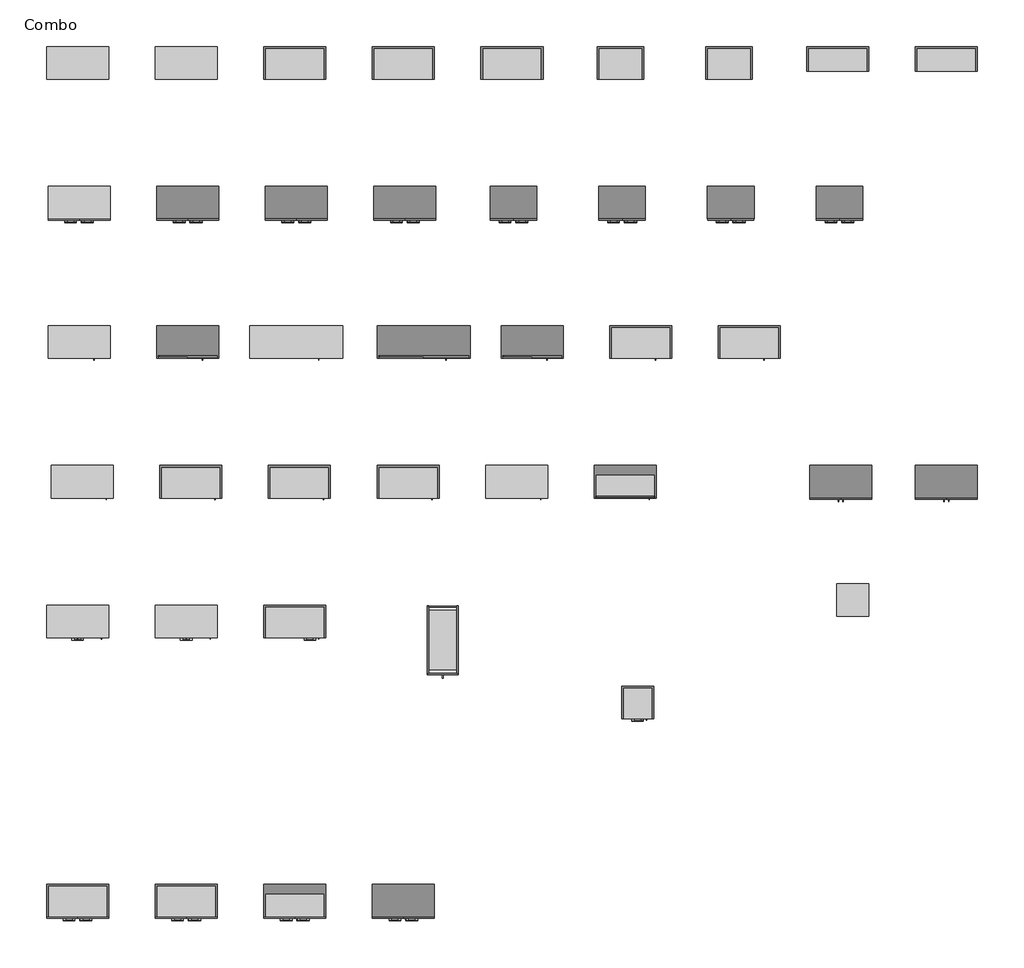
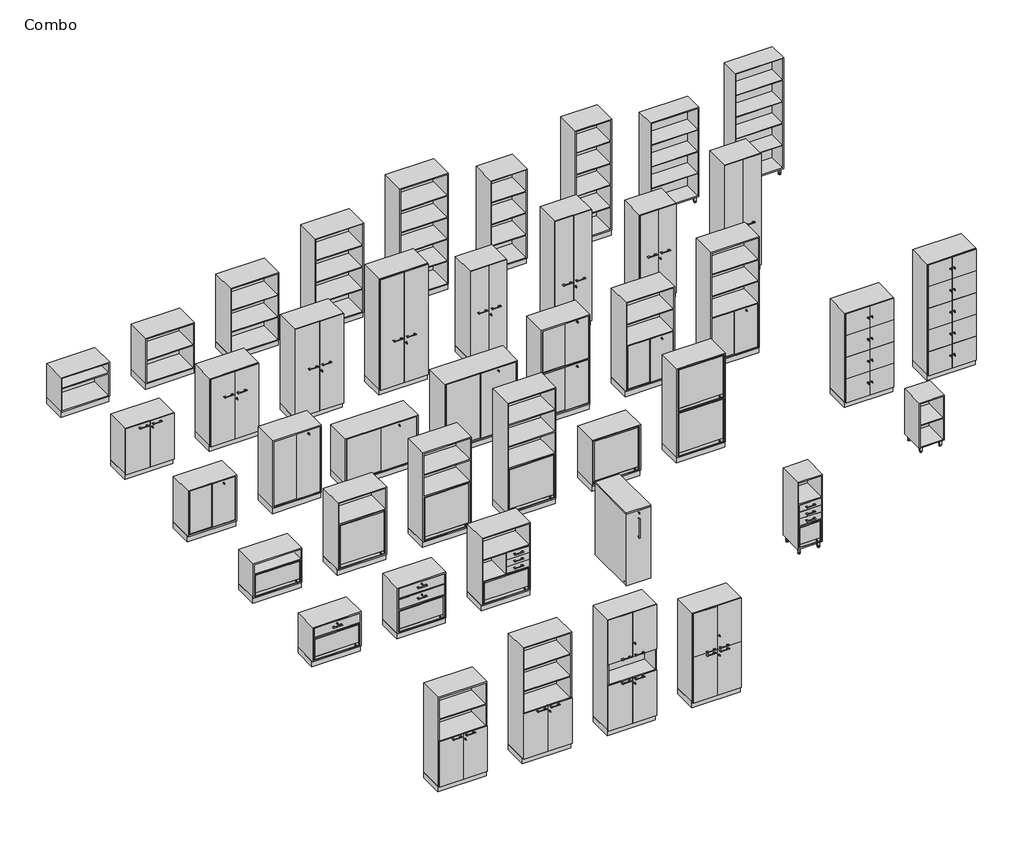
# One storey, incomplete: 42 furniture elements.
"""IFC4 building model written with IfcOpenShell, lengths in millimetres."""

from ifc_helpers import new_model, si_unit, origin, place, context, project, spatial, transform, mapped, element, save
from components import combo_e1c26738, combo_fbc3f960, combo_d0bdfe3d, combo_storage_unit_with_table_option_2_units_high_with_legs_ef2d6247, combo_storage_unit_with_table_option_3_units_high_with_legs_f63a31d1, combo_5812ab_cb1a2f4d, combo_5812ra_2ba49a49, combo_5812rh_d4502ce2, combo_58212lo2_bfeb9648, combo_582ab_0a20db7f, combo_582lo2_4d29bc16, combo_582o2_99a22e70, combo_582r2_b9b0f654, combo_582rh2_982bc437, combo_58312lo3_2c3f5c58, combo_583ab_46ee31a1, combo_583lo3_e871488f, combo_583o3_67cd6d1d, combo_583r2a_af021363, combo_5843fab_0cfe6a43, combo_5846ab_d922b521, combo_5846o4_faa56c90, combo_584ab_45974ca2, combo_584lo2a2_7451a039, combo_584lo2lo2_bb4d1e14, combo_584o2a2_30174030, combo_584o2o2_7f34b21f, combo_584o4_b0ceb60e, combo_584r2a2_5a396519, combo_584r2r2_8ca098e3, combo_5853fab_45658896, combo_5856ab_b2c2fb7c, combo_5856o5_f4b56ffa, combo_585ab_34b19a80, combo_585lo2a3_1e52c30f, combo_585o2a3_d7f32742, combo_585o2ao2_e6e83b51, combo_585o5_5a32f465, combo_585r2a3_b05462e7, combo_side_cabinet_588pl_d26bd0a2

model = new_model("IFC4")

# Units and contexts
model_context = context("Model", 3, world=origin())
ifc_project = project(units=[si_unit("LENGTHUNIT", "METRE", prefix="MILLI")], contexts=[model_context])

# Site, building, storey
site = spatial("IfcSite", under=ifc_project)
building = spatial("IfcBuilding", under=site)
storey = spatial("IfcBuildingStorey", under=building, Name="Combo", Elevation=0.0)

# Furniture
placement = place(None, origin())
combo_shape = combo_e1c26738(model_context)
element("IfcFurniture", 1, ObjectType="Combo : 584OOOO", at=placement, inside=storey, context=model_context, shape_type="MappedRepresentation", body=[
    mapped(combo_shape, transform((11507.9226241, 642.3576064, 0.0), x_axis=(1.0, 0.0, 0.0), y_axis=(0.0, 1.0, 0.0), z_axis=(0.0, 0.0, 1.0))),
])
combo_2_shape = combo_fbc3f960(model_context)
element("IfcFurniture", 2, ObjectType="Combo : 585OOOOO", at=placement, inside=storey, context=model_context, shape_type="MappedRepresentation", body=[
    mapped(combo_2_shape, transform((12870.6419535, 642.3576064, 0.0), x_axis=(1.0, 0.0, 0.0), y_axis=(0.0, 1.0, 0.0), z_axis=(0.0, 0.0, 1.0))),
])
combo_3_shape = combo_d0bdfe3d(model_context)
element("IfcFurniture", 3, ObjectType="Combo : 583RKDA", at=placement, inside=storey, context=model_context, shape_type="MappedRepresentation", body=[
    mapped(combo_3_shape, transform((4470.6419535, -1157.6423936, 0.0), x_axis=(1.0, 0.0, 0.0), y_axis=(0.0, 1.0, 0.0), z_axis=(0.0, 0.0, 1.0))),
])
combo_storage_unit_with_table_option_2_units_high_with_legs_shape = combo_storage_unit_with_table_option_2_units_high_with_legs_ef2d6247(model_context)
element("IfcFurniture", 4, ObjectType="Combo - Storage unit with table option : 2 units high with legs", at=placement, inside=storey, context=model_context, shape_type="MappedRepresentation", body=[
    mapped(combo_storage_unit_with_table_option_2_units_high_with_legs_shape, transform((11664.8156128, -883.4327778, 0.0), x_axis=(1.0, 0.0, 0.0), y_axis=(0.0, 1.0, 0.0), z_axis=(0.0, 0.0, 1.0))),
])
combo_storage_unit_with_table_option_3_units_high_with_legs_shape = combo_storage_unit_with_table_option_3_units_high_with_legs_f63a31d1(model_context)
element("IfcFurniture", 5, ObjectType="Combo - Storage unit with table option : 3 units high with legs", at=placement, inside=storey, context=model_context, shape_type="MappedRepresentation", body=[
    mapped(combo_storage_unit_with_table_option_3_units_high_with_legs_shape, transform((8890.6419535, -2201.1616414, 0.0), x_axis=(1.0, 0.0, 0.0), y_axis=(0.0, 1.0, 0.0), z_axis=(0.0, 0.0, 1.0))),
])
combo_5812ab_shape = combo_5812ab_cb1a2f4d(model_context)
element("IfcFurniture", 6, ObjectType="Combo : 5812AB", at=placement, inside=storey, context=model_context, shape_type="MappedRepresentation", body=[
    mapped(combo_5812ab_shape, transform((1670.6419535, 6042.3576064, 0.0), x_axis=(1.0, 0.0, 0.0), y_axis=(0.0, 1.0, 0.0), z_axis=(0.0, 0.0, 1.0))),
])
combo_5812ra_shape = combo_5812ra_2ba49a49(model_context)
element("IfcFurniture", 7, ObjectType="Combo : 5812RA", at=placement, inside=storey, context=model_context, shape_type="MappedRepresentation", body=[
    mapped(combo_5812ra_shape, transform((1730.6419535, 642.3576064, 0.0), x_axis=(1.0, 0.0, 0.0), y_axis=(0.0, 1.0, 0.0), z_axis=(0.0, 0.0, 1.0))),
])
combo_5812rh_shape = combo_5812rh_d4502ce2(model_context)
element("IfcFurniture", 8, ObjectType="Combo : 5812RH", at=placement, inside=storey, context=model_context, shape_type="MappedRepresentation", body=[
    mapped(combo_5812rh_shape, transform((1670.6419535, -1157.6423936, 0.0), x_axis=(1.0, 0.0, 0.0), y_axis=(0.0, 1.0, 0.0), z_axis=(0.0, 0.0, 1.0))),
])
combo_58212lo2_shape = combo_58212lo2_bfeb9648(model_context)
element("IfcFurniture", 9, ObjectType="Combo : 58212LO2", at=placement, inside=storey, context=model_context, shape_type="MappedRepresentation", body=[
    mapped(combo_58212lo2_shape, transform((4490.6419535, 2442.3576064, 0.0), x_axis=(1.0, 0.0, 0.0), y_axis=(0.0, 1.0, 0.0), z_axis=(0.0, 0.0, 1.0))),
])
combo_582ab_shape = combo_582ab_0a20db7f(model_context)
element("IfcFurniture", 10, ObjectType="Combo : 582AB", at=placement, inside=storey, context=model_context, shape_type="MappedRepresentation", body=[
    mapped(combo_582ab_shape, transform((3070.6419535, 6042.3576064, 0.0), x_axis=(1.0, 0.0, 0.0), y_axis=(0.0, 1.0, 0.0), z_axis=(0.0, 0.0, 1.0))),
])
combo_582lo2_shape = combo_582lo2_4d29bc16(model_context)
element("IfcFurniture", 11, ObjectType="Combo : 582LO2", at=placement, inside=storey, context=model_context, shape_type="MappedRepresentation", body=[
    mapped(combo_582lo2_shape, transform((1690.6419535, 2442.3576064, 0.0), x_axis=(1.0, 0.0, 0.0), y_axis=(0.0, 1.0, 0.0), z_axis=(0.0, 0.0, 1.0))),
])
combo_582o2_shape = combo_582o2_99a22e70(model_context)
element("IfcFurniture", 12, ObjectType="Combo : 582O2", at=placement, inside=storey, context=model_context, shape_type="MappedRepresentation", body=[
    mapped(combo_582o2_shape, transform((1690.6419535, 4242.3576064, 0.0), x_axis=(1.0, 0.0, 0.0), y_axis=(0.0, 1.0, 0.0), z_axis=(0.0, 0.0, 1.0))),
])
combo_582r2_shape = combo_582r2_b9b0f654(model_context)
element("IfcFurniture", 13, ObjectType="Combo : 582R2", at=placement, inside=storey, context=model_context, shape_type="MappedRepresentation", body=[
    mapped(combo_582r2_shape, transform((7330.6419535, 642.3576064, 0.0), x_axis=(1.0, 0.0, 0.0), y_axis=(0.0, 1.0, 0.0), z_axis=(0.0, 0.0, 1.0))),
])
combo_582rh2_shape = combo_582rh2_982bc437(model_context)
element("IfcFurniture", 14, ObjectType="Combo : 582RH2", at=placement, inside=storey, context=model_context, shape_type="MappedRepresentation", body=[
    mapped(combo_582rh2_shape, transform((3070.6419535, -1157.6423936, 0.0), x_axis=(1.0, 0.0, 0.0), y_axis=(0.0, 1.0, 0.0), z_axis=(0.0, 0.0, 1.0))),
])
combo_58312lo3_shape = combo_58312lo3_2c3f5c58(model_context)
element("IfcFurniture", 15, ObjectType="Combo : 58312LO3", at=placement, inside=storey, context=model_context, shape_type="MappedRepresentation", body=[
    mapped(combo_58312lo3_shape, transform((6130.6419535, 2442.3576064, 0.0), x_axis=(1.0, 0.0, 0.0), y_axis=(0.0, 1.0, 0.0), z_axis=(0.0, 0.0, 1.0))),
])
combo_583ab_shape = combo_583ab_46ee31a1(model_context)
element("IfcFurniture", 16, ObjectType="Combo : 583AB", at=placement, inside=storey, context=model_context, shape_type="MappedRepresentation", body=[
    mapped(combo_583ab_shape, transform((4470.6419535, 6042.3576064, 0.0), x_axis=(1.0, 0.0, 0.0), y_axis=(0.0, 1.0, 0.0), z_axis=(0.0, 0.0, 1.0))),
])
combo_583lo3_shape = combo_583lo3_e871488f(model_context)
element("IfcFurniture", 17, ObjectType="Combo : 583LO3", at=placement, inside=storey, context=model_context, shape_type="MappedRepresentation", body=[
    mapped(combo_583lo3_shape, transform((3090.6419535, 2442.3576064, 0.0), x_axis=(1.0, 0.0, 0.0), y_axis=(0.0, 1.0, 0.0), z_axis=(0.0, 0.0, 1.0))),
])
combo_583o3_shape = combo_583o3_67cd6d1d(model_context)
element("IfcFurniture", 18, ObjectType="Combo : 583O3", at=placement, inside=storey, context=model_context, shape_type="MappedRepresentation", body=[
    mapped(combo_583o3_shape, transform((3090.6419535, 4242.3576064, 0.0), x_axis=(1.0, 0.0, 0.0), y_axis=(0.0, 1.0, 0.0), z_axis=(0.0, 0.0, 1.0))),
])
combo_583r2a_shape = combo_583r2a_af021363(model_context)
element("IfcFurniture", 19, ObjectType="Combo : 583R2A", at=placement, inside=storey, context=model_context, shape_type="MappedRepresentation", body=[
    mapped(combo_583r2a_shape, transform((3130.6419535, 642.3576064, 0.0), x_axis=(1.0, 0.0, 0.0), y_axis=(0.0, 1.0, 0.0), z_axis=(0.0, 0.0, 1.0))),
])
combo_5843fab_shape = combo_5843fab_0cfe6a43(model_context)
element("IfcFurniture", 20, ObjectType="Combo : 5843FAB", at=placement, inside=storey, context=model_context, shape_type="MappedRepresentation", body=[
    mapped(combo_5843fab_shape, transform((11470.6419535, 6042.3576064, 0.0), x_axis=(1.0, 0.0, 0.0), y_axis=(0.0, 1.0, 0.0), z_axis=(0.0, 0.0, 1.0))),
])
combo_5846ab_shape = combo_5846ab_d922b521(model_context)
element("IfcFurniture", 21, ObjectType="Combo : 5846AB", at=placement, inside=storey, context=model_context, shape_type="MappedRepresentation", body=[
    mapped(combo_5846ab_shape, transform((8670.6419535, 6042.3576064, 0.0), x_axis=(1.0, 0.0, 0.0), y_axis=(0.0, 1.0, 0.0), z_axis=(0.0, 0.0, 1.0))),
])
combo_5846o4_shape = combo_5846o4_faa56c90(model_context)
element("IfcFurniture", 22, ObjectType="Combo : 5846O4", at=placement, inside=storey, context=model_context, shape_type="MappedRepresentation", body=[
    mapped(combo_5846o4_shape, transform((7290.6419535, 4242.3576064, 0.0), x_axis=(1.0, 0.0, 0.0), y_axis=(0.0, 1.0, 0.0), z_axis=(0.0, 0.0, 1.0))),
])
element("IfcFurniture", 23, ObjectType="Combo : 5846O4U", at=placement, inside=storey, context=model_context, shape_type="MappedRepresentation", body=[
    mapped(combo_5846o4_shape, transform((10090.6419535, 4242.3576064, 0.0), x_axis=(1.0, 0.0, 0.0), y_axis=(0.0, 1.0, 0.0), z_axis=(0.0, 0.0, 1.0))),
])
combo_584ab_shape = combo_584ab_45974ca2(model_context)
element("IfcFurniture", 24, ObjectType="Combo : 584AB", at=placement, inside=storey, context=model_context, shape_type="MappedRepresentation", body=[
    mapped(combo_584ab_shape, transform((5870.6419535, 6042.3576064, 0.0), x_axis=(1.0, 0.0, 0.0), y_axis=(0.0, 1.0, 0.0), z_axis=(0.0, 0.0, 1.0))),
])
combo_584lo2a2_shape = combo_584lo2a2_7451a039(model_context)
element("IfcFurniture", 25, ObjectType="Combo : 584LO2A2", at=placement, inside=storey, context=model_context, shape_type="MappedRepresentation", body=[
    mapped(combo_584lo2a2_shape, transform((8930.6419535, 2442.3576064, 0.0), x_axis=(1.0, 0.0, 0.0), y_axis=(0.0, 1.0, 0.0), z_axis=(0.0, 0.0, 1.0))),
])
combo_584lo2lo2_shape = combo_584lo2lo2_bb4d1e14(model_context)
element("IfcFurniture", 26, ObjectType="Combo : 584LO2LO2", at=placement, inside=storey, context=model_context, shape_type="MappedRepresentation", body=[
    mapped(combo_584lo2lo2_shape, transform((7530.6419535, 2442.3576064, 0.0), x_axis=(1.0, 0.0, 0.0), y_axis=(0.0, 1.0, 0.0), z_axis=(0.0, 0.0, 1.0))),
])
combo_584o2a2_shape = combo_584o2a2_30174030(model_context)
element("IfcFurniture", 27, ObjectType="Combo : 584O2A2", at=placement, inside=storey, context=model_context, shape_type="MappedRepresentation", body=[
    mapped(combo_584o2a2_shape, transform((1670.6419535, -4757.6423936, 0.0), x_axis=(1.0, 0.0, 0.0), y_axis=(0.0, 1.0, 0.0), z_axis=(0.0, 0.0, 1.0))),
])
combo_584o2o2_shape = combo_584o2o2_7f34b21f(model_context)
element("IfcFurniture", 28, ObjectType="Combo : 584O2O2", at=placement, inside=storey, context=model_context, shape_type="MappedRepresentation", body=[
    mapped(combo_584o2o2_shape, transform((5870.6419535, -4757.6423936, 0.0), x_axis=(1.0, 0.0, 0.0), y_axis=(0.0, 1.0, 0.0), z_axis=(0.0, 0.0, 1.0))),
])
combo_584o4_shape = combo_584o4_b0ceb60e(model_context)
element("IfcFurniture", 29, ObjectType="Combo : 584O4", at=placement, inside=storey, context=model_context, shape_type="MappedRepresentation", body=[
    mapped(combo_584o4_shape, transform((4490.6419535, 4242.3576064, 0.0), x_axis=(1.0, 0.0, 0.0), y_axis=(0.0, 1.0, 0.0), z_axis=(0.0, 0.0, 1.0))),
])
combo_584r2a2_shape = combo_584r2a2_5a396519(model_context)
element("IfcFurniture", 30, ObjectType="Combo : 584R2A2", at=placement, inside=storey, context=model_context, shape_type="MappedRepresentation", body=[
    mapped(combo_584r2a2_shape, transform((4530.6419535, 642.3576064, 0.0), x_axis=(1.0, 0.0, 0.0), y_axis=(0.0, 1.0, 0.0), z_axis=(0.0, 0.0, 1.0))),
])
combo_584r2r2_shape = combo_584r2r2_8ca098e3(model_context)
element("IfcFurniture", 31, ObjectType="Combo : 584R2R2", at=placement, inside=storey, context=model_context, shape_type="MappedRepresentation", body=[
    mapped(combo_584r2r2_shape, transform((8730.6419535, 642.3576064, 0.0), x_axis=(1.0, 0.0, 0.0), y_axis=(0.0, 1.0, 0.0), z_axis=(0.0, 0.0, 1.0))),
])
combo_5853fab_shape = combo_5853fab_45658896(model_context)
element("IfcFurniture", 32, ObjectType="Combo : 5853FAB", at=placement, inside=storey, context=model_context, shape_type="MappedRepresentation", body=[
    mapped(combo_5853fab_shape, transform((12870.6419535, 6042.3576064, 0.0), x_axis=(1.0, 0.0, 0.0), y_axis=(0.0, 1.0, 0.0), z_axis=(0.0, 0.0, 1.0))),
])
combo_5856ab_shape = combo_5856ab_b2c2fb7c(model_context)
element("IfcFurniture", 33, ObjectType="Combo : 5856AB", at=placement, inside=storey, context=model_context, shape_type="MappedRepresentation", body=[
    mapped(combo_5856ab_shape, transform((10070.6419535, 6042.3576064, 0.0), x_axis=(1.0, 0.0, 0.0), y_axis=(0.0, 1.0, 0.0), z_axis=(0.0, 0.0, 1.0))),
])
combo_5856o5_shape = combo_5856o5_f4b56ffa(model_context)
element("IfcFurniture", 34, ObjectType="Combo : 5856O5", at=placement, inside=storey, context=model_context, shape_type="MappedRepresentation", body=[
    mapped(combo_5856o5_shape, transform((8690.6419535, 4242.3576064, 0.0), x_axis=(1.0, 0.0, 0.0), y_axis=(0.0, 1.0, 0.0), z_axis=(0.0, 0.0, 1.0))),
])
element("IfcFurniture", 35, ObjectType="Combo : 5856O5U", at=placement, inside=storey, context=model_context, shape_type="MappedRepresentation", body=[
    mapped(combo_5856o5_shape, transform((11490.6419535, 4242.3576064, 0.0), x_axis=(1.0, 0.0, 0.0), y_axis=(0.0, 1.0, 0.0), z_axis=(0.0, 0.0, 1.0))),
])
combo_585ab_shape = combo_585ab_34b19a80(model_context)
element("IfcFurniture", 36, ObjectType="Combo : 585AB", at=placement, inside=storey, context=model_context, shape_type="MappedRepresentation", body=[
    mapped(combo_585ab_shape, transform((7270.6419535, 6042.3576064, 0.0), x_axis=(1.0, 0.0, 0.0), y_axis=(0.0, 1.0, 0.0), z_axis=(0.0, 0.0, 1.0))),
])
combo_585lo2a3_shape = combo_585lo2a3_1e52c30f(model_context)
element("IfcFurniture", 37, ObjectType="Combo : 585LO2A3", at=placement, inside=storey, context=model_context, shape_type="MappedRepresentation", body=[
    mapped(combo_585lo2a3_shape, transform((10330.6419535, 2442.3576064, 0.0), x_axis=(1.0, 0.0, 0.0), y_axis=(0.0, 1.0, 0.0), z_axis=(0.0, 0.0, 1.0))),
])
combo_585o2a3_shape = combo_585o2a3_d7f32742(model_context)
element("IfcFurniture", 38, ObjectType="Combo : 585O2A3", at=placement, inside=storey, context=model_context, shape_type="MappedRepresentation", body=[
    mapped(combo_585o2a3_shape, transform((3070.6419535, -4757.6423936, 0.0), x_axis=(1.0, 0.0, 0.0), y_axis=(0.0, 1.0, 0.0), z_axis=(0.0, 0.0, 1.0))),
])
combo_585o2ao2_shape = combo_585o2ao2_e6e83b51(model_context)
element("IfcFurniture", 39, ObjectType="Combo : 585O2AO2", at=placement, inside=storey, context=model_context, shape_type="MappedRepresentation", body=[
    mapped(combo_585o2ao2_shape, transform((4470.6419535, -4757.6423936, 0.0), x_axis=(1.0, 0.0, 0.0), y_axis=(0.0, 1.0, 0.0), z_axis=(0.0, 0.0, 1.0))),
])
combo_585o5_shape = combo_585o5_5a32f465(model_context)
element("IfcFurniture", 40, ObjectType="Combo : 585O5", at=placement, inside=storey, context=model_context, shape_type="MappedRepresentation", body=[
    mapped(combo_585o5_shape, transform((5890.6419535, 4242.3576064, 0.0), x_axis=(1.0, 0.0, 0.0), y_axis=(0.0, 1.0, 0.0), z_axis=(0.0, 0.0, 1.0))),
])
combo_585r2a3_shape = combo_585r2a3_b05462e7(model_context)
element("IfcFurniture", 41, ObjectType="Combo : 585R2A3", at=placement, inside=storey, context=model_context, shape_type="MappedRepresentation", body=[
    mapped(combo_585r2a3_shape, transform((5930.6419535, 642.3576064, 0.0), x_axis=(1.0, 0.0, 0.0), y_axis=(0.0, 1.0, 0.0), z_axis=(0.0, 0.0, 1.0))),
])
combo_side_cabinet_588pl_shape = combo_side_cabinet_588pl_d26bd0a2(model_context)
element("IfcFurniture", 42, ObjectType="Combo side cabinet : 588PL", at=placement, inside=storey, context=model_context, shape_type="MappedRepresentation", body=[
    mapped(combo_side_cabinet_588pl_shape, transform((6378.1658942, -2061.4185005, 0.0), x_axis=(1.0, 0.0, 0.0), y_axis=(0.0, 1.0, 0.0), z_axis=(0.0, 0.0, 1.0))),
])

save(model, "model.ifc")
